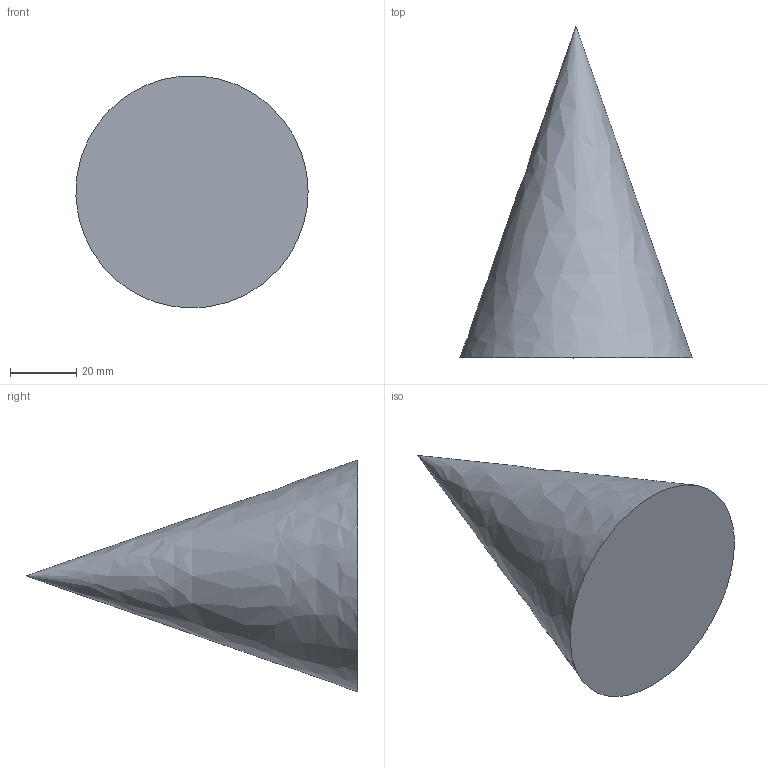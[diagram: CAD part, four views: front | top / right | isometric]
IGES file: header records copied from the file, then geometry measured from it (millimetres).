
Global section: file name: C:\mihara\offset_Test_Data\cylinder.igs; preprocessor: I-DEAS 3D IGES Translator 11; date: 20050408.140009; units: millimetre
Bounding box: 69.97 x 100 x 69.92 mm (x, y, z)
Volume: 127490.4 mm3; surface area: 15527 mm2
Topology: 1 solids, 1 shells, 2 faces, 3 edges, 2 vertices
Faces by surface type: bspline 2
